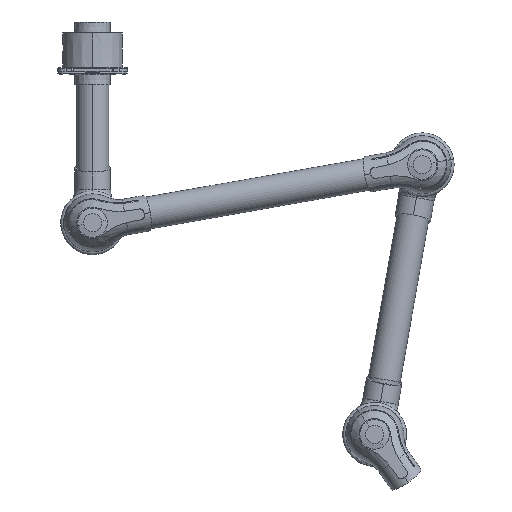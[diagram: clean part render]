
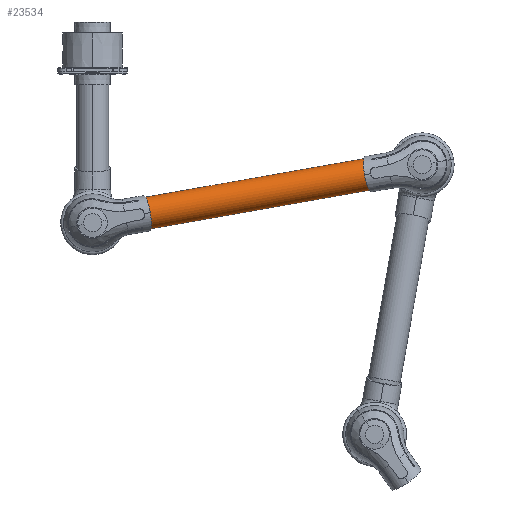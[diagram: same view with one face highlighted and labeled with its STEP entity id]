
A CAD part, top view. The second image highlights one B-rep face of the part: STEP entity #23534.
In plain terms, the highlighted cylindrical face has radius 26.3 mm (diameter 52.6 mm), a partial arc.
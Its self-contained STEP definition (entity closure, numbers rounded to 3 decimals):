
#23447=CARTESIAN_POINT('',(0.,0.,0.));
#23448=DIRECTION('',(1.,0.,0.));
#23449=DIRECTION('',(0.,1.,0.));
#23450=AXIS2_PLACEMENT_3D('',#23447,#23448,#23449);
#23455=DIRECTION('',(-1.,0.,0.));
#23456=VECTOR('',#23455,440.);
#23457=CARTESIAN_POINT('',(0.,26.3,0.));
#23458=LINE('',#23457,#23456);
#23462=DIRECTION('',(-1.,0.,0.));
#23463=VECTOR('',#23462,440.);
#23464=CARTESIAN_POINT('',(0.,-26.3,0.));
#23465=LINE('',#23464,#23463);
#23485=CARTESIAN_POINT('',(-440.,0.,0.));
#23486=DIRECTION('',(1.,0.,0.));
#23487=DIRECTION('',(0.,1.,0.));
#23488=AXIS2_PLACEMENT_3D('',#23485,#23486,#23487);
#23493=CARTESIAN_POINT('',(0.,26.3,0.));
#23494=CARTESIAN_POINT('',(-440.,26.3,0.));
#23495=VERTEX_POINT('',#23493);
#23496=VERTEX_POINT('',#23494);
#23497=CARTESIAN_POINT('',(0.,-26.3,0.));
#23498=CARTESIAN_POINT('',(-440.,-26.3,0.));
#23499=VERTEX_POINT('',#23497);
#23500=VERTEX_POINT('',#23498);
#23520=CARTESIAN_POINT('',(-462.,0.,0.));
#23521=DIRECTION('',(1.,0.,0.));
#23522=DIRECTION('',(0.,-1.,0.));
#23523=AXIS2_PLACEMENT_3D('',#23520,#23521,#23522);
#23524=CYLINDRICAL_SURFACE('',#23523,26.3);
#23526=ORIENTED_EDGE('',*,*,#23525,.F.);
#23527=ORIENTED_EDGE('',*,*,#23506,.T.);
#23529=ORIENTED_EDGE('',*,*,#23528,.T.);
#23531=ORIENTED_EDGE('',*,*,#23530,.F.);
#23532=EDGE_LOOP('',(#23526,#23527,#23529,#23531));
#23533=FACE_OUTER_BOUND('',#23532,.F.);
#23451=CIRCLE('',#23450,26.3);
#23489=CIRCLE('',#23488,26.3);
#23506=EDGE_CURVE('',#23495,#23499,#23451,.T.);
#23525=EDGE_CURVE('',#23495,#23496,#23458,.T.);
#23528=EDGE_CURVE('',#23499,#23500,#23465,.T.);
#23530=EDGE_CURVE('',#23496,#23500,#23489,.T.);
#23534=ADVANCED_FACE('',(#23533),#23524,.T.);
